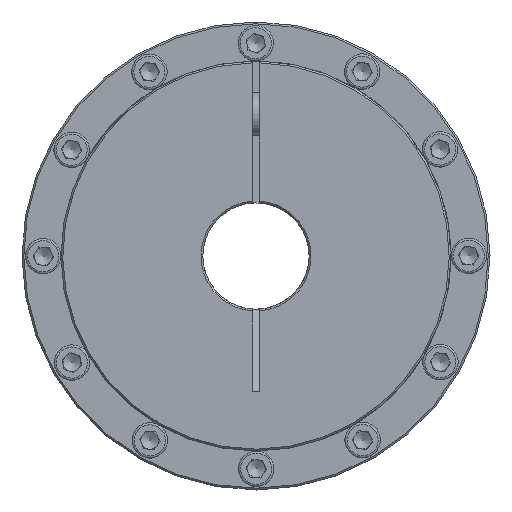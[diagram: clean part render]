
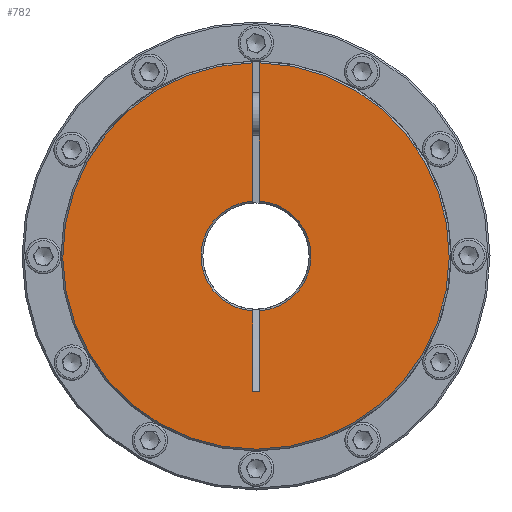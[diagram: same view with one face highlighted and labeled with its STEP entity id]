
A CAD part, left-side view. The second image highlights one B-rep face of the part: STEP entity #782.
In plain terms, the highlighted planar face has unit normal (-1, 0, 0).
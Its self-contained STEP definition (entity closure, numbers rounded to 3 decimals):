
#782 = ADVANCED_FACE( 'NONE', ( #1539 ), #1540, .F. );
#1539 = FACE_OUTER_BOUND( '', #2403, .T. );
#1540 = PLANE( '', #2404 );
#2403 = EDGE_LOOP( '', ( #3576, #3577, #3578, #3579, #3580, #3581, #3582, #3583 ) );
#2404 = AXIS2_PLACEMENT_3D( '', #3584, #3585, #3586 );
#3576 = ORIENTED_EDGE( '', *, *, #4560, .T. );
#3577 = ORIENTED_EDGE( '', *, *, #4307, .T. );
#3578 = ORIENTED_EDGE( '', *, *, #4565, .T. );
#3579 = ORIENTED_EDGE( '', *, *, #4582, .T. );
#3580 = ORIENTED_EDGE( '', *, *, #4426, .F. );
#3581 = ORIENTED_EDGE( '', *, *, #4296, .T. );
#3582 = ORIENTED_EDGE( '', *, *, #4653, .F. );
#3583 = ORIENTED_EDGE( '', *, *, #4316, .T. );
#3584 = CARTESIAN_POINT( '', ( 0., 15., 0. ) );
#3585 = DIRECTION( '', ( 1., 0., 0. ) );
#3586 = DIRECTION( '', ( 0., 1., 0. ) );
#4296 = EDGE_CURVE( 'NONE', #4839, #4836, #4840, .T. );
#4307 = EDGE_CURVE( 'NONE', #4858, #4855, #4859, .T. );
#4316 = EDGE_CURVE( 'NONE', #4868, #4872, #4874, .T. );
#4426 = EDGE_CURVE( 'NONE', #4839, #5056, #5057, .F. );
#4560 = EDGE_CURVE( 'NONE', #4872, #4858, #5271, .T. );
#4565 = EDGE_CURVE( 'NONE', #4855, #5278, #5279, .T. );
#4582 = EDGE_CURVE( 'NONE', #5278, #5056, #5304, .F. );
#4653 = EDGE_CURVE( 'NONE', #4868, #4836, #5406, .F. );
#4836 = VERTEX_POINT( 'NONE', #5627 );
#4839 = VERTEX_POINT( 'NONE', #5633 );
#4840 = CIRCLE( '', #5634, 15.5 );
#4855 = VERTEX_POINT( 'NONE', #5652 );
#4858 = VERTEX_POINT( 'NONE', #5658 );
#4859 = CIRCLE( '', #5659, 15.5 );
#4868 = VERTEX_POINT( 'NONE', #5671 );
#4872 = VERTEX_POINT( 'NONE', #5678 );
#4874 = LINE( '', #5680, #5681 );
#5056 = VERTEX_POINT( 'NONE', #5888 );
#5057 = LINE( '', #5889, #5890 );
#5271 = LINE( '', #6145, #6146 );
#5278 = VERTEX_POINT( 'NONE', #6153 );
#5279 = LINE( '', #6154, #6155 );
#5304 = CIRCLE( '', #6187, 54.5 );
#5406 = LINE( '', #6309, #6310 );
#5627 = CARTESIAN_POINT( '', ( 0., 15.468, -1. ) );
#5633 = CARTESIAN_POINT( '', ( 0., -15.468, -1. ) );
#5634 = AXIS2_PLACEMENT_3D( '', #6732, #6733, #6734 );
#5652 = CARTESIAN_POINT( '', ( 0., -15.468, 1. ) );
#5658 = CARTESIAN_POINT( '', ( 0., 15.468, 1. ) );
#5659 = AXIS2_PLACEMENT_3D( '', #6750, #6751, #6752 );
#5671 = CARTESIAN_POINT( '', ( 0., 38.303, -1. ) );
#5678 = CARTESIAN_POINT( '', ( 0., 38.303, 1. ) );
#5680 = CARTESIAN_POINT( '', ( 0., 38.303, -1. ) );
#5681 = VECTOR( '', #6765, 1000. );
#5888 = CARTESIAN_POINT( '', ( 0., -54.491, -1. ) );
#5889 = CARTESIAN_POINT( '', ( 0., -15., -1. ) );
#5890 = VECTOR( '', #6959, 1000. );
#6145 = CARTESIAN_POINT( '', ( 0., 15., 1. ) );
#6146 = VECTOR( '', #7163, 1000. );
#6153 = CARTESIAN_POINT( '', ( 0., -54.491, 1. ) );
#6154 = CARTESIAN_POINT( '', ( 0., 15., 1. ) );
#6155 = VECTOR( '', #7170, 1000. );
#6187 = AXIS2_PLACEMENT_3D( '', #7193, #7194, #7195 );
#6309 = CARTESIAN_POINT( '', ( 0., -15., -1. ) );
#6310 = VECTOR( '', #7285, 1000. );
#6732 = CARTESIAN_POINT( '', ( 0., 0., 0. ) );
#6733 = DIRECTION( '', ( 1., 0., 0. ) );
#6734 = DIRECTION( '', ( 0., 0., -1. ) );
#6750 = CARTESIAN_POINT( '', ( 0., 0., 0. ) );
#6751 = DIRECTION( '', ( 1., 0., 0. ) );
#6752 = DIRECTION( '', ( 0., 0., -1. ) );
#6765 = DIRECTION( '', ( 0., 0., 1. ) );
#6959 = DIRECTION( '', ( 0., 1., 0. ) );
#7163 = DIRECTION( '', ( 0., -1., 0. ) );
#7170 = DIRECTION( '', ( 0., -1., 0. ) );
#7193 = CARTESIAN_POINT( '', ( 0., 0., 0. ) );
#7194 = DIRECTION( '', ( 1., 0., 0. ) );
#7195 = DIRECTION( '', ( 0., 0., -1. ) );
#7285 = DIRECTION( '', ( 0., 1., 0. ) );
